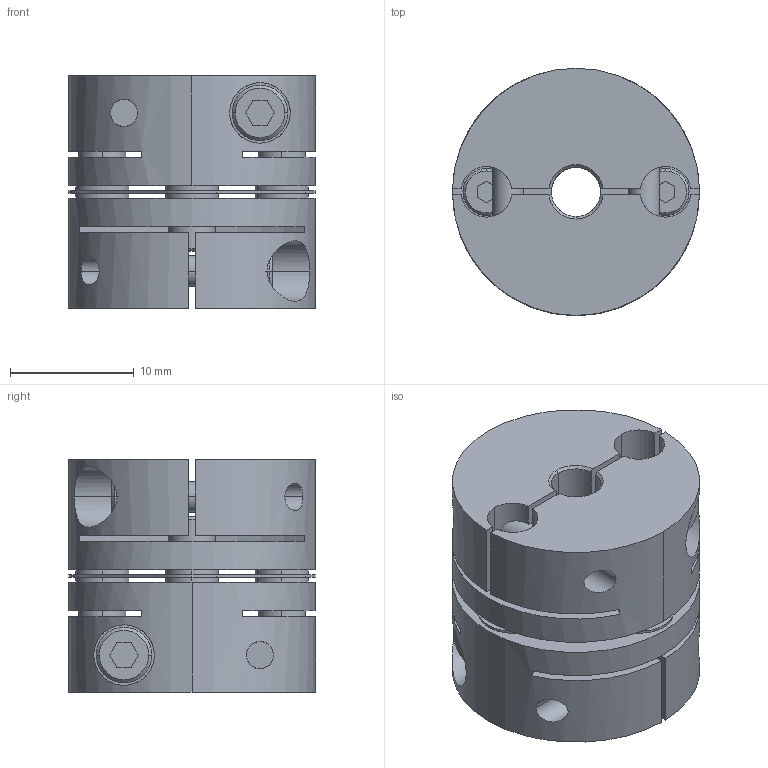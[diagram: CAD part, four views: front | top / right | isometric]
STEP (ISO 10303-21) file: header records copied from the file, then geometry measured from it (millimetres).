
FILE_DESCRIPTION((''),'2;1');
FILE_NAME('LAS-20C-4×4.stp','2011-08-10T08:51:05',(''),(''),'AutoCAD STEP 2000i','AutoCAD 2000i',', , ');
FILE_SCHEMA(('CONFIG_CONTROL_DESIGN'));
Length unit declared in the file: millimetre
Products named in the file (5): LAS-20C-4×4; 忣兜1; LA-2002-D04-1; LA-2002-D04; LAS20-ITA
Assembly tree (4 placements, depth 2):
  LAS-20C-4×4
    忣兜1
    LA-2002-D04-1
    LA-2002-D04
    LAS20-ITA
Bounding box: 20 x 20 x 18.8 mm (x, y, z)
Volume: 4767.9 mm3; surface area: 4587.2 mm2
Topology: 1 solids, 1 shells, 236 faces, 624 edges, 408 vertices
Faces by surface type: plane 112, cylinder 96, cone 28
Entity records: 8203 total; most frequent: CARTESIAN_POINT 2009, DIRECTION 1302, ORIENTED_EDGE 1248, EDGE_CURVE 624, AXIS2_PLACEMENT_3D 477, VERTEX_POINT 408, VECTOR 348, LINE 348
